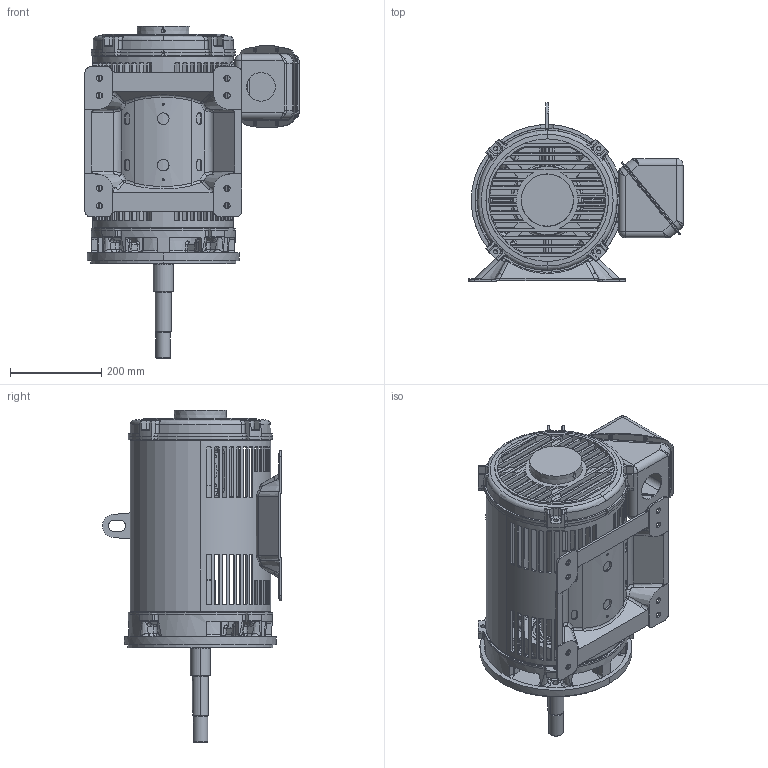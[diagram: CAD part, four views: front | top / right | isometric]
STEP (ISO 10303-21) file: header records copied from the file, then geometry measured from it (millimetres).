
FILE_DESCRIPTION((''),'2;1');
FILE_NAME('280TS_D_ASM','2014-08-06T',('NMC779F'),('Nidec Motor Corporation'),'PRO/ENGINEER BY PARAMETRIC TECHNOLOGY CORPORATION, 2013150','PRO/ENGINEER BY PARAMETRIC TECHNOLOGY CORPORATION, 2013150','');
FILE_SCHEMA(('CONFIG_CONTROL_DESIGN'));
Length unit declared in the file: inch
Products named in the file (10): 280_D_FRAME; 1000149-OP02; 0561420; 0396164; 0391696; 0378793; 0378794; 0396168; 0929946; 280TS_D_ASM
Assembly tree (9 placements, depth 2):
  280TS_D_ASM
    280_D_FRAME
    1000149-OP02
    0561420
    0396164
    0391696
    0378793
    0378794
    0396168
    0929946
Bounding box: 468.95 x 391.65 x 727.11 mm (x, y, z)
Volume: 7428328.4 mm3; surface area: 2123630.5 mm2
Topology: 11 solids, 11 shells, 2498 faces, 6502 edges, 3995 vertices
Faces by surface type: plane 839, cylinder 661, bspline 544, cone 226, torus 154, sphere 70, extrusion 4
Entity records: 103364 total; most frequent: CARTESIAN_POINT 46716, ORIENTED_EDGE 12946, DIRECTION 10285, EDGE_CURVE 6473, AXIS2_PLACEMENT_3D 4000, VERTEX_POINT 3995, EDGE_LOOP 2756, FACE_OUTER_BOUND 2498
